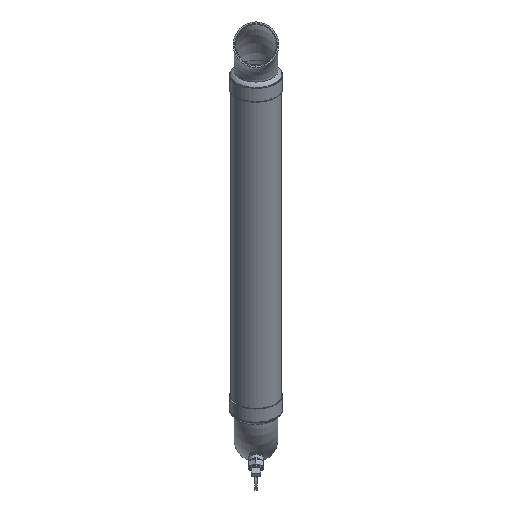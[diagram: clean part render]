
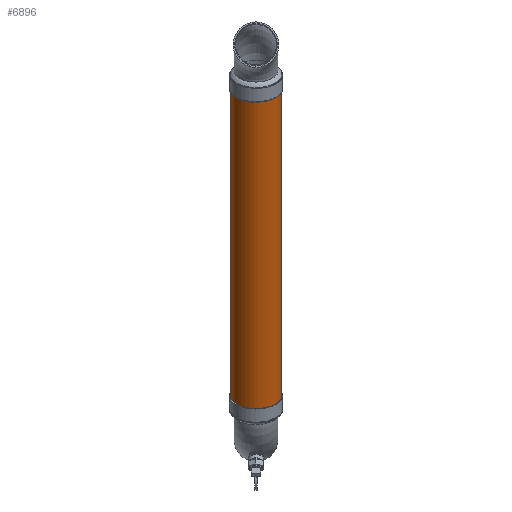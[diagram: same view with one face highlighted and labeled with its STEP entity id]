
A CAD part, front view. The second image highlights one B-rep face of the part: STEP entity #6896.
In plain terms, the highlighted cylindrical face has radius 40.284 mm (diameter 80.569 mm), a full revolution.
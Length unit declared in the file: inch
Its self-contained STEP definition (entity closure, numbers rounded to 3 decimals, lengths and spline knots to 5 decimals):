
#6869=CARTESIAN_POINT('',(0.0,0.0,0.0));
#6870=DIRECTION('',(0.0,0.0,1.0));
#6871=DIRECTION('',(-1.0,0.0,0.0));
#6872=AXIS2_PLACEMENT_3D('',#6869,#6870,#6871);
#6873=CYLINDRICAL_SURFACE('',#6872,1.586);
#6874=CARTESIAN_POINT('',(1.586,0.,23.877));
#6875=VERTEX_POINT('',#6874);
#6876=CARTESIAN_POINT('',(0.0,0.0,23.877));
#6877=DIRECTION('',(0.0,0.0,-1.0));
#6878=DIRECTION('',(-1.0,0.0,0.0));
#6879=AXIS2_PLACEMENT_3D('',#6876,#6877,#6878);
#6880=CIRCLE('',#6879,1.586);
#6881=EDGE_CURVE('',#6875,#6875,#6880,.T.);
#6882=ORIENTED_EDGE('',*,*,#6881,.T.);
#6883=EDGE_LOOP('',(#6882));
#6884=FACE_OUTER_BOUND('',#6883,.T.);
#6885=CARTESIAN_POINT('',(1.586,0.,0.0));
#6886=VERTEX_POINT('',#6885);
#6887=CARTESIAN_POINT('',(0.0,0.0,0.0));
#6888=DIRECTION('',(0.0,0.0,-1.0));
#6889=DIRECTION('',(-1.0,0.0,0.0));
#6890=AXIS2_PLACEMENT_3D('',#6887,#6888,#6889);
#6891=CIRCLE('',#6890,1.586);
#6892=EDGE_CURVE('',#6886,#6886,#6891,.T.);
#6893=ORIENTED_EDGE('',*,*,#6892,.F.);
#6894=EDGE_LOOP('',(#6893));
#6895=FACE_BOUND('',#6894,.T.);
#6896=ADVANCED_FACE('',(#6884,#6895),#6873,.T.);
